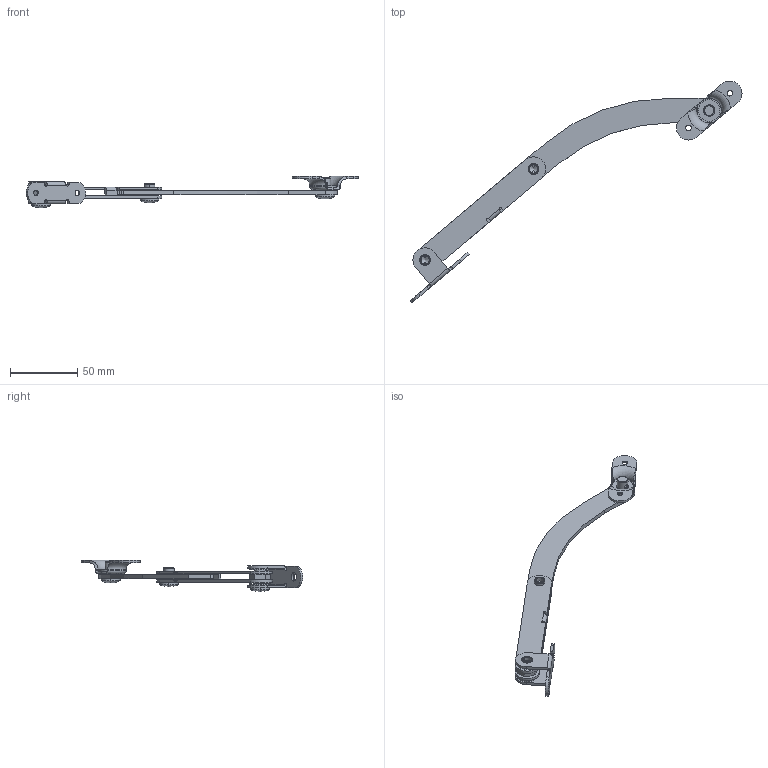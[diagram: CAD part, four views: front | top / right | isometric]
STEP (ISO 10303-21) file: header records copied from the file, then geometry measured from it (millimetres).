
FILE_DESCRIPTION((''),'2;1');
FILE_NAME('TX80-1_ASM','2016-07-07T',('Administrator'),(''),'PRO/ENGINEER BY PARAMETRIC TECHNOLOGY CORPORATION, 2009060','PRO/ENGINEER BY PARAMETRIC TECHNOLOGY CORPORATION, 2009060','');
FILE_SCHEMA(('CONFIG_CONTROL_DESIGN'));
Length unit declared in the file: millimetre
Products named in the file (12): XIANWEIGAN1; BAIGAN3; BAIGAN2; 6MMGANZHU; GUDINGZUO; M10BAOLUOMU; MAODING3; DIANPIAN; MAODING2; MAODING; GUDINGZUO1; TX80-1_ASM
Assembly tree (14 placements, depth 2):
  TX80-1_ASM
    XIANWEIGAN1
    BAIGAN3
    BAIGAN2
    6MMGANZHU
    GUDINGZUO
    M10BAOLUOMU
    MAODING3
    DIANPIAN  x4
    MAODING2
    MAODING
    GUDINGZUO1
Bounding box: 246.19 x 164.42 x 23.3 mm (x, y, z)
Volume: 27032.9 mm3; surface area: 28001.2 mm2
Topology: 14 solids, 14 shells, 251 faces, 606 edges, 368 vertices
Faces by surface type: cylinder 98, plane 78, bspline 32, cone 20, sphere 12, torus 11
Entity records: 9432 total; most frequent: CARTESIAN_POINT 3818, DIRECTION 1129, ORIENTED_EDGE 1104, EDGE_CURVE 552, AXIS2_PLACEMENT_3D 441, VERTEX_POINT 344, EDGE_LOOP 270, VECTOR 247
